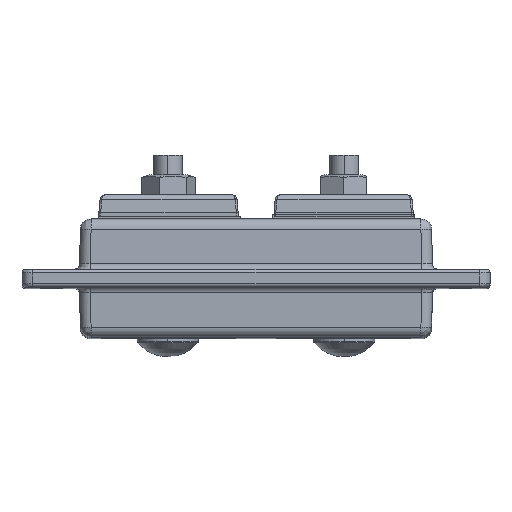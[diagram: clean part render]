
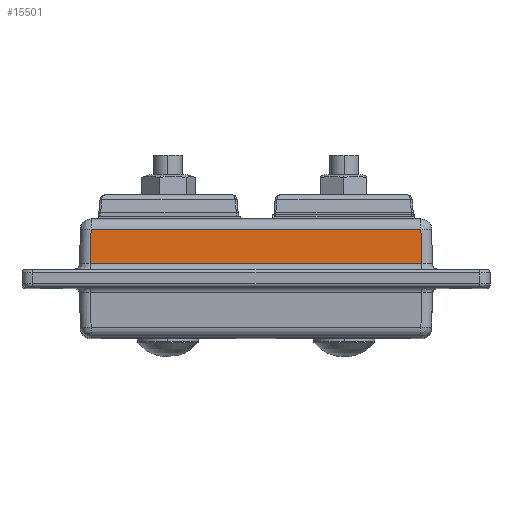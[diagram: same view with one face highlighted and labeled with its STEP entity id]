
A CAD part, top view. The second image highlights one B-rep face of the part: STEP entity #15501.
In plain terms, the highlighted planar face has unit normal (0, 0.018, 1).
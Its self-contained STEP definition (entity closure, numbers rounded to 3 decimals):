
#853 = CARTESIAN_POINT ( 'NONE',  ( 45.814, 13.552, 101.263 ) ) ;
#992 = VERTEX_POINT ( 'NONE', #7325 ) ;
#2300 = CARTESIAN_POINT ( 'NONE',  ( -49.05, 13.552, 101.263 ) ) ;
#2356 = LINE ( 'NONE', #10470, #19532 ) ;
#2591 = DIRECTION ( 'NONE',  ( -0.017, 1., -0.017 ) ) ;
#2663 = CARTESIAN_POINT ( 'NONE',  ( 45.981, 3.974, 101.431 ) ) ;
#3099 = CARTESIAN_POINT ( 'NONE',  ( 45.981, 3.974, 101.431 ) ) ;
#4052 = VERTEX_POINT ( 'NONE', #853 ) ;
#4264 = VERTEX_POINT ( 'NONE', #3099 ) ;
#5179 = EDGE_CURVE ( 'NONE', #4264, #4052, #13906, .T. ) ;
#5214 = DIRECTION ( 'NONE',  ( 0., -1., 0.017 ) ) ;
#5405 = ORIENTED_EDGE ( 'NONE', *, *, #18611, .F. ) ;
#5582 = EDGE_CURVE ( 'NONE', #4052, #15702, #16178, .T. ) ;
#6689 = CARTESIAN_POINT ( 'NONE',  ( -49.05, 0., 101.5 ) ) ;
#7201 = DIRECTION ( 'NONE',  ( 0.017, 1., -0.017 ) ) ;
#7296 = CARTESIAN_POINT ( 'NONE',  ( -45.814, 13.552, 101.263 ) ) ;
#7325 = CARTESIAN_POINT ( 'NONE',  ( -45.981, 3.974, 101.431 ) ) ;
#7723 = FACE_OUTER_BOUND ( 'NONE', #18566, .T. ) ;
#8358 = DIRECTION ( 'NONE',  ( 1., 0., 0. ) ) ;
#8405 = ORIENTED_EDGE ( 'NONE', *, *, #5179, .T. ) ;
#9880 = DIRECTION ( 'NONE',  ( 0., 0.017, 1. ) ) ;
#10177 = LINE ( 'NONE', #11532, #12898 ) ;
#10470 = CARTESIAN_POINT ( 'NONE',  ( -44.668, 79.197, 100.118 ) ) ;
#11532 = CARTESIAN_POINT ( 'NONE',  ( -46.44, 3.974, 101.431 ) ) ;
#11778 = DIRECTION ( 'NONE',  ( -1., 0., 0. ) ) ;
#11866 = ORIENTED_EDGE ( 'NONE', *, *, #19473, .T. ) ;
#12397 = VECTOR ( 'NONE', #11778, 1000. ) ;
#12606 = ORIENTED_EDGE ( 'NONE', *, *, #5582, .T. ) ;
#12898 = VECTOR ( 'NONE', #8358, 1000. ) ;
#13671 = VECTOR ( 'NONE', #2591, 1000. ) ;
#13906 = LINE ( 'NONE', #2663, #13671 ) ;
#15501 = ADVANCED_FACE ( 'NONE', ( #7723 ), #19673, .T. ) ;
#15702 = VERTEX_POINT ( 'NONE', #7296 ) ;
#16178 = LINE ( 'NONE', #2300, #12397 ) ;
#18098 = AXIS2_PLACEMENT_3D ( 'NONE', #6689, #9880, #5214 ) ;
#18566 = EDGE_LOOP ( 'NONE', ( #8405, #12606, #5405, #11866 ) ) ;
#18611 = EDGE_CURVE ( 'NONE', #992, #15702, #2356, .T. ) ;
#19473 = EDGE_CURVE ( 'NONE', #992, #4264, #10177, .T. ) ;
#19532 = VECTOR ( 'NONE', #7201, 1000. ) ;
#19673 = PLANE ( 'NONE',  #18098 ) ;
